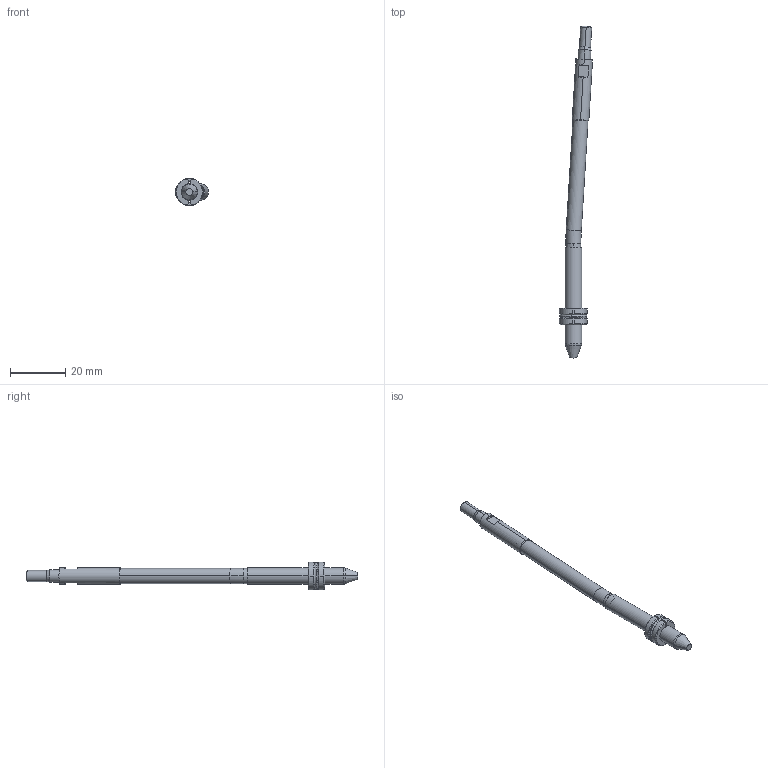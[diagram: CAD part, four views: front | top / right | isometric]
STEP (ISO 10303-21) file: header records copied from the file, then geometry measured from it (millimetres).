
FILE_DESCRIPTION (( 'STEP AP214' ), '1' );
FILE_NAME ('WP060030-EJE 3,5°.STEP', '2021-03-19T15:10:29', ( '' ), ( '' ), 'SwSTEP 2.0', 'SolidWorks 2019', '' );
FILE_SCHEMA (( 'AUTOMOTIVE_DESIGN' ));
Length unit declared in the file: millimetre
Products named in the file (6): WEB-002-9WP060030-2; WP060030-EJE 3,5°; WEB-001-9WP060030-1; WEB-007-9WP060030-F_WP060030-F-ON 3,5ø; WEB-008-JUNTA-JT7X1X9; WEB-006-9WP060030-6
Assembly tree (5 placements, depth 2):
  WP060030-EJE 3,5°
    WEB-001-9WP060030-1
    WEB-007-9WP060030-F_WP060030-F-ON 3,5ø
    WEB-002-9WP060030-2
    WEB-006-9WP060030-6
    WEB-008-JUNTA-JT7X1X9
Bounding box: 11.91 x 119.76 x 9.99 mm (x, y, z)
Volume: 3173.9 mm3; surface area: 2920.6 mm2
Topology: 6 solids, 6 shells, 112 faces, 262 edges, 164 vertices
Faces by surface type: cylinder 36, cone 28, plane 28, torus 20
Entity records: 3723 total; most frequent: CARTESIAN_POINT 714, DIRECTION 598, ORIENTED_EDGE 524, EDGE_CURVE 262, AXIS2_PLACEMENT_3D 256, VERTEX_POINT 164, CIRCLE 136, EDGE_LOOP 116
